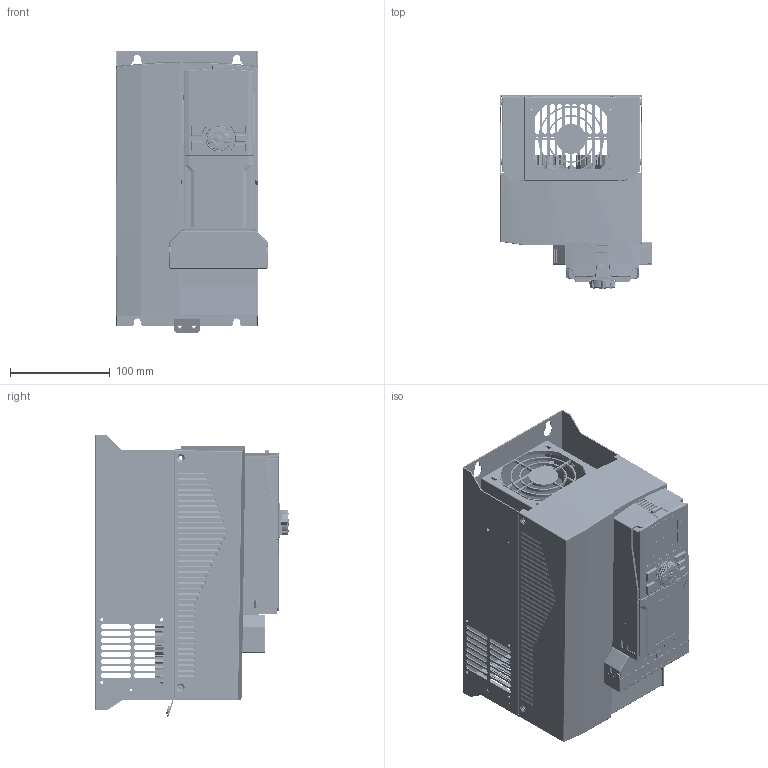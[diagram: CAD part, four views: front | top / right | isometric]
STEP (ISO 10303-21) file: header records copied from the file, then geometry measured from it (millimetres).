
FILE_DESCRIPTION((''),'2;1');
FILE_NAME('00-A8-11_ASM_146_ASM_38_ASM','2024-08-14T',('Administrator'),(''),'PRO/ENGINEER BY PARAMETRIC TECHNOLOGY CORPORATION, 2010280','PRO/ENGINEER BY PARAMETRIC TECHNOLOGY CORPORATION, 2010280','');
FILE_SCHEMA(('AUTOMOTIVE_DESIGN { 1 0 10303 214 1 1 1 1 }'));
Length unit declared in the file: millimetre
Products named in the file (70): A8-11-01-01-01_34_3; S-M4-ZC_17_2; S-M3-ZC_17_2; A8-11-01-01-01_ASM_27_ASM_2_ASM; A8-11-01-01-02_30_1_2; A8-11-01-01-02_30_2_2; A8-11-01-01-02_30_3_2; A8-11-01-01-02_30_ASM_3_ASM; A8-11-01-01-02_ASM_22_ASM_2_ASM; MANIFOLD_SOLID_BREP_45888; MANIFOLD_SOLID_BREP_46188; MANIFOLD_SOLID_BREP_46488; A8-11-01-01-03_29_1_8_ASM; A8-11-01-01-03_29_2_2; A8-11-01-01-03_29_3_2; A8-11-01-01-03_29_ASM_2_ASM; A8-11-01-01-03_ASM_21_ASM_2_ASM; A8-11-01-01_ASM_25_ASM_2_ASM; A8-11-01-02-01_144_3; A8-11-01-02-02_109_2; A8-11-01-02-03_56_3; A8-11-01-02-05_17_2; A8-11-01-02_ASM_31_ASM_2_ASM; A8-11-01_ASM_59_ASM_5_ASM; BHC5-9-13R5-01_22_2; A8Q-11-01Y-20220317_ASM_46_ASM__ASM; GB9074-8-1988-M3X10_13_1_1; GB9074-8-1988-M3X10_13_2_1; GB9074-8-1988-M3X10_13_3_1; GB9074-8-1988-M3X10_13_ASM_1_ASM; MANIFOLD_SOLID_BREP_292335; _110001_16_ASM; A9-01-01_2; A9-01-02_2; A9-01-04_2; A9-01_ASM_3_ASM; 8PING-ZUO_2; KFM736-5D0_2; A9KZPCB_ASM_3_ASM; A9-01-08_2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
Assembly tree (96 placements, depth 7):
  00-A8-11_ASM_146_ASM_38_ASM
    A8-11-01_ASM_59_ASM_5_ASM
      A8-11-01-01_ASM_25_ASM_2_ASM
        A8-11-01-01-01_ASM_27_ASM_2_ASM
          A8-11-01-01-01_34_3
          S-M4-ZC_17_2  x4
          S-M3-ZC_17_2  x11
        A8-11-01-01-02_ASM_22_ASM_2_ASM
          A8-11-01-01-02_30_ASM_3_ASM
            A8-11-01-01-02_30_1_2
            A8-11-01-01-02_30_2_2
            A8-11-01-01-02_30_3_2
          S-M4-ZC_17_2  x2
          S-M3-ZC_17_2  x4
        A8-11-01-01-03_ASM_21_ASM_2_ASM
          A8-11-01-01-03_29_ASM_2_ASM
            A8-11-01-01-03_29_1_8_ASM
              MANIFOLD_SOLID_BREP_45888
              MANIFOLD_SOLID_BREP_46188
              MANIFOLD_SOLID_BREP_46488
            A8-11-01-01-03_29_2_2
            A8-11-01-01-03_29_3_2
      A8-11-01-02_ASM_31_ASM_2_ASM
        A8-11-01-02-01_144_3
        A8-11-01-02-02_109_2
        A8-11-01-02-03_56_3
        A8-11-01-02-05_17_2
    A8Q-11-01Y-20220317_ASM_46_ASM__ASM
      BHC5-9-13R5-01_22_2
    GB9074-8-1988-M3X10_13_ASM_1_ASM
      GB9074-8-1988-M3X10_13_1_1
      GB9074-8-1988-M3X10_13_2_1
      GB9074-8-1988-M3X10_13_3_1
    _110001_16_ASM
      MANIFOLD_SOLID_BREP_292335
    00-A9-KZ_ASM_3_ASM
      A9-01_ASM_3_ASM
        A9-01-01_2
        A9-01-02_2
        A9-01-04_2
      A9KZPCB_ASM_3_ASM
        8PING-ZUO_2  x2
        KFM736-5D0_2
      KZK-00_ASM_3_ASM
        A9-KZK-01_ASM_2_ASM
          A9-01-08_2
          A9-01-09_2
          A9-01-10_2
        KZK_ASM_3_ASM
          KF250-3-5_2
          SKD-2500-03_2  x2
          KF250-3-5-2P_2
          8PIN-ZUO-1_2  x2
      A9-JP_ASM_3_ASM
        A9-JP-01_ASM_2_ASM
          A9-01-05_2
          A9-01-06_2
          A9-01-07_2
        A9-10_ASM_3_ASM
          A9-10-01_2
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Bounding box: 151.99 x 194.8 x 282.34 mm (x, y, z)
Volume: 633518.6 mm3; surface area: 901293.9 mm2
Topology: 73 solids, 80 shells, 18501 faces, 58969 edges, 46194 vertices
Faces by surface type: plane 15385, cylinder 1889, cone 701, extrusion 180, bspline 157, torus 121, sphere 68
Entity records: 606014 total; most frequent: CARTESIAN_POINT 103957, DIRECTION 80128, ORIENTED_EDGE 76756, EDGE_CURVE 38426, VECTOR 36028, LINE 35938, PRESENTATION_STYLE_ASSIGNMENT 28962, STYLED_ITEM 28816
